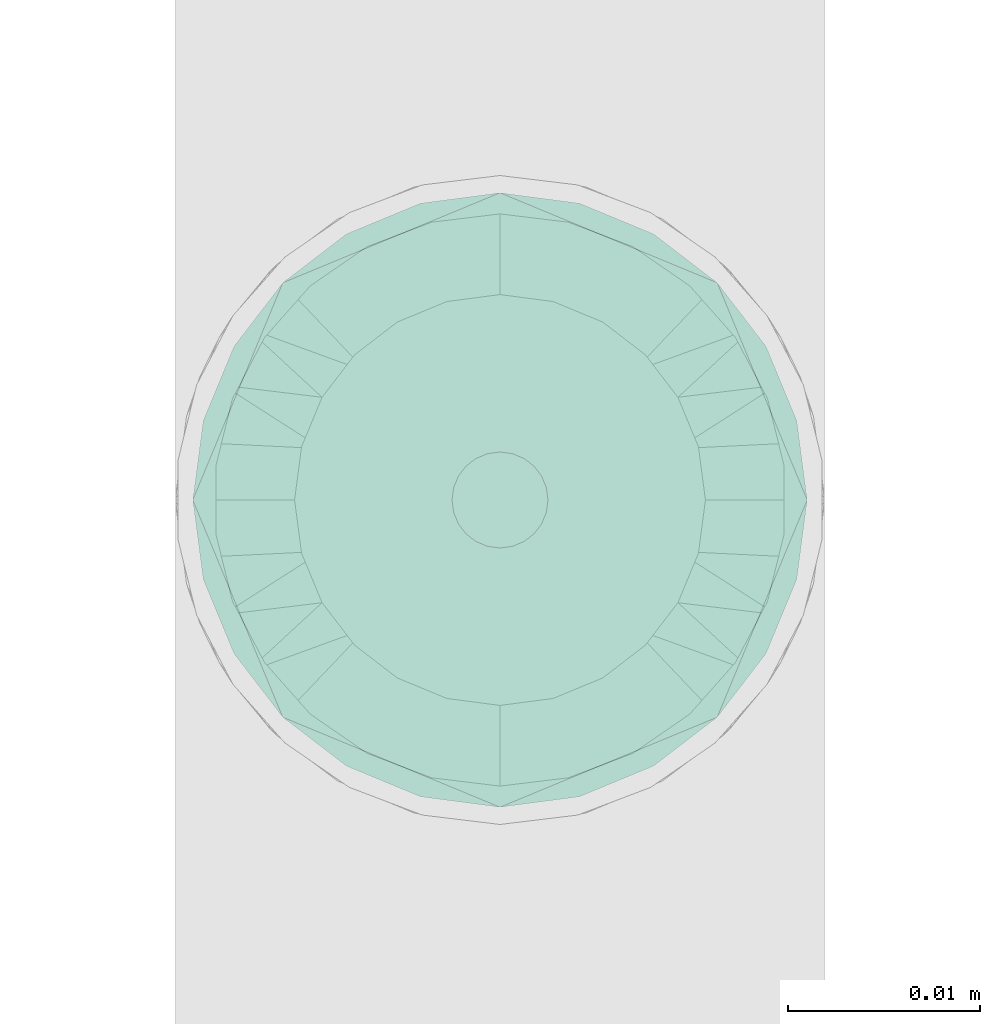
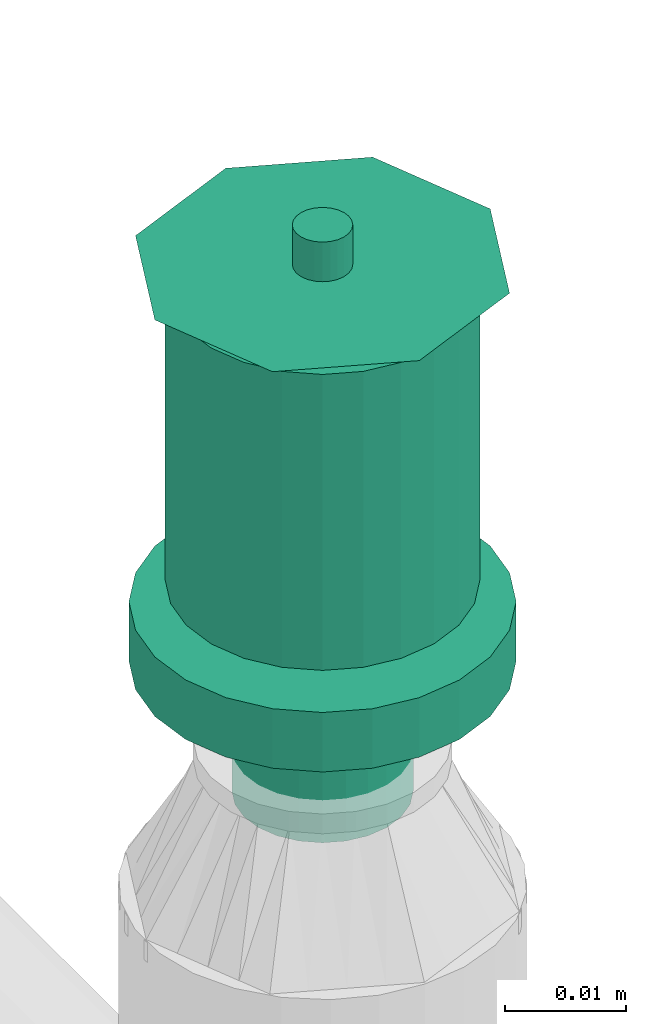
# One storey, part 27 of 31: 1 flow terminal.
"""IFC2X3 building model written with IfcOpenShell, lengths in millimetres."""

from ifc_helpers import new_model, entity, si_unit, converted_unit, derived_unit, direction, frame, origin_with_axes, place, context, subcontext, project, spatial, open_shell, surface_model, source, transform, mapped, type_object, element, save


model = new_model("IFC2X3")

# Units and contexts
model_context = context("Model", 3, precision=0.01, world=frame((0.0, 4.29681676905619e-09, 0.0)), true_north=direction((4.01073788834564e-13, 1.0)))
plan_context = context("Plan", 3, precision=0.01, world=frame((0.0, 4.29681676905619e-09, 0.0)), true_north=direction((4.01073788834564e-13, 1.0)))
body_context = subcontext(model_context, "Body", "Model", "MODEL_VIEW")
ifc_project = project(units=[converted_unit("PLANEANGLEUNIT", "DEGREE", entity("IfcPositiveLengthMeasure", 0.0174532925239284), si_unit("PLANEANGLEUNIT", "RADIAN"), dimensions=[0, 0, 0, 0, 0, 0, 0]), si_unit("AREAUNIT", "SQUARE_METRE"), si_unit("LENGTHUNIT", "METRE", prefix="MILLI"), si_unit("MASSUNIT", "GRAM", prefix="KILO"), si_unit("POWERUNIT", "WATT"), si_unit("PRESSUREUNIT", "PASCAL", prefix="KILO"), si_unit("FORCEUNIT", "NEWTON", prefix="KILO"), si_unit("ELECTRICVOLTAGEUNIT", "VOLT"), si_unit("ELECTRICCURRENTUNIT", "AMPERE"), si_unit("THERMODYNAMICTEMPERATUREUNIT", "DEGREE_CELSIUS"), si_unit("TIMEUNIT", "SECOND"), si_unit("VOLUMEUNIT", "CUBIC_METRE"), derived_unit("LINEARVELOCITYUNIT", [(si_unit("LENGTHUNIT", "METRE"), 1), (si_unit("TIMEUNIT", "SECOND"), -1)]), derived_unit("VOLUMETRICFLOWRATEUNIT", [(si_unit("VOLUMEUNIT", "CUBIC_METRE"), 1), (si_unit("TIMEUNIT", "SECOND"), -1)]), derived_unit("THERMALTRANSMITTANCEUNIT", [(si_unit("POWERUNIT", "WATT"), 1), (si_unit("THERMODYNAMICTEMPERATUREUNIT", "KELVIN"), -1), (si_unit("AREAUNIT", "SQUARE_METRE"), -1)]), derived_unit("SOUNDPRESSUREUNIT", [(si_unit("PRESSUREUNIT", "PASCAL"), 1)])], contexts=[model_context, plan_context])

# Site, building, storey
site_placement = place(None, frame((0.0, -4.29681676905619e-09, 0.0), z_axis=(0.0, 0.0, 1.0), x_axis=(1.0, 0.0, 0.0)))
site = spatial("IfcSite", under=ifc_project, at=site_placement, CompositionType="ELEMENT")
building_placement = place(site_placement, frame((0.0, 4.29681676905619e-09, 0.0), z_axis=(0.0, 0.0, 1.0), x_axis=(1.0, 0.0, 0.0)))
building = spatial("IfcBuilding", under=site, at=building_placement, Name="mc-building", CompositionType="ELEMENT")
storey_placement = place(building_placement, frame((0.0, 0.0, 200300.0), z_axis=(0.0, 0.0, 1.0), x_axis=(1.0, 0.0, 0.0)))
storey = spatial("IfcBuildingStorey", under=building, at=storey_placement, Name="Nivå C", CompositionType="ELEMENT", Elevation=200300.0)

# Flow terminal
fire_suppression_terminal_type = type_object("IfcFireSuppressionTerminalType", Name="68DGR-STD-STÅENDE", PredefinedType="NOTDEFINED")
shared_shape = source(origin_with_axes(), body_context, "Body", "SurfaceModel", [
    surface_model("IfcShellBasedSurfaceModel", [(12.55704, 3.36465, 21.14766), (13.0, 0.0, 21.14766), (12.55704, -3.36465, 21.14766), (-12.55704, -3.36465, 21.14766), (-11.25833, -6.5, 21.14766), (-11.25833, -6.5, 51.0), (3.36465, -12.55704, 51.0), (3.36465, -12.55704, 21.14766), (6.5, -11.25833, 21.14766), (9.19239, -9.19239, 21.14766), (11.25833, -6.5, 21.14766), (9.19239, -9.19239, 51.0), (6.5, -11.25833, 51.0), (11.25833, -6.5, 51.0), (12.55704, -3.36465, 51.0), (13.0, 0.0, 51.0), (9.19239, 9.19239, 51.0), (11.25833, 6.5, 21.14766), (9.19239, 9.19239, 21.14766), (11.25833, 6.5, 51.0), (12.55704, 3.36465, 51.0), (6.5, 11.25833, 51.0), (6.5, 11.25833, 21.14766), (3.36465, 12.55704, 21.14766), (3.36465, 12.55704, 51.0), (-11.25833, 6.5, 51.0), (-11.25833, 6.5, 21.14766), (-12.55704, 3.36465, 21.14766), (0.0, -2.5, 51.0), (-2.5, 0.0, 51.0), (0.0, 2.5, 51.0), (2.5, 0.0, 51.0), (11.31371, 11.31371, 53.0), (-11.31371, 11.31371, 53.0), (-11.31371, -11.31371, 53.0), (11.31371, -11.31371, 53.0), (1.62635, 1.62635, 51.0), (2.16506, 1.25, 51.0), (1.99186, 1.15, 51.0), (-1.76777, 1.76777, 51.0), (-1.25, 2.16506, 51.0), (-1.62635, 1.62635, 51.0), (1.99186, -1.15, 51.0), (2.16506, -1.25, 51.0), (1.62635, -1.62635, 51.0), (-1.62635, -1.62635, 51.0), (-1.25, -2.16506, 51.0), (-1.76777, -1.76777, 51.0), (0.0, 7.3, 0.0), (1.94114, 7.24444, 0.0), (1.88938, 7.05126, 0.0), (5.16188, 5.16188, 0.0), (6.49519, 3.75, 0.0), (6.32199, 3.65, 0.0), (-5.3033, 5.3033, 0.0), (-3.75, 6.49519, 0.0), (-5.16188, 5.16188, 0.0), (6.32199, -3.65, 0.0), (6.49519, -3.75, 0.0), (5.16188, -5.16188, 0.0), (1.88938, -7.05126, 0.0), (1.94114, -7.24444, 0.0), (0.0, -7.3, 0.0), (-5.16188, -5.16188, 0.0), (-3.75, -6.49519, 0.0), (-5.3033, -5.3033, 0.0), (-3.36465, 12.55704, 51.0), (-6.5, 11.25833, 51.0), (0.0, 13.0, 51.0), (-9.19239, 9.19239, 51.0), (0.0, -13.0, 51.0), (-9.19239, -9.19239, 51.0), (-12.55704, -3.36465, 51.0), (-6.5, -11.25833, 51.0), (-3.36465, -12.55704, 51.0), (-7.5, 0.0, -0.1), (-7.24444, 1.94114, 0.1), (-7.24444, 1.94114, -0.1), (-6.49519, 3.75, 0.1), (-6.49519, 3.75, -0.1), (-3.75, 6.49519, -0.1), (-5.3033, 5.3033, -0.1), (-3.75, 6.49519, 0.1), (-5.3033, 5.3033, 0.1), (-1.94114, 7.24444, -0.1), (-1.94114, 7.24444, 0.1), (-7.5, 0.0, 0.1), (0.0, 7.5, 0.1), (0.0, 7.5, -0.1), (1.94114, 7.24444, 0.1), (1.94114, 7.24444, -0.1), (3.75, 6.49519, 0.1), (3.75, 6.49519, -0.1), (6.49519, 3.75, -0.1), (5.3033, 5.3033, -0.1), (6.49519, 3.75, 0.1), (5.3033, 5.3033, 0.1), (7.24444, 1.94114, -0.1), (7.24444, 1.94114, 0.1), (7.5, 0.0, 0.1), (7.5, 0.0, -0.1), (-7.24444, -1.94114, 0.1), (7.24444, -1.94114, 0.1), (5.3033, -5.3033, 0.1), (6.49519, -3.75, 0.1), (-6.49519, -3.75, 0.1), (0.0, -7.5, 0.1), (1.94114, -7.24444, 0.1), (3.75, -6.49519, 0.1), (-3.75, -6.49519, 0.1), (-1.94114, -7.24444, 0.1), (-5.3033, -5.3033, 0.1), (0.0, -7.5, -0.1), (-6.49519, -3.75, -0.1), (1.94114, -7.24444, -0.1), (3.75, -6.49519, -0.1), (5.3033, -5.3033, -0.1), (7.24444, -1.94114, -0.1), (6.49519, -3.75, -0.1), (-3.75, -6.49519, -0.1), (-5.3033, -5.3033, -0.1), (-1.94114, -7.24444, -0.1), (-7.24444, -1.94114, -0.1), (16.0, 0.0, 53.0), (0.0, -16.0, 53.0), (-16.0, 0.0, 53.0), (0.0, 16.0, 53.0), (0.64705, 2.41481, 57.0), (0.0, 2.5, 57.0), (1.25, 2.16506, 57.0), (-2.5, 0.0, 57.0), (1.76777, 1.76777, 57.0), (2.41481, 0.64705, 57.0), (2.16506, 1.25, 57.0), (-0.64705, 2.41481, 57.0), (-1.25, 2.16506, 57.0), (-1.76777, 1.76777, 57.0), (-2.16506, 1.25, 57.0), (-2.41481, 0.64705, 57.0), (2.5, 0.0, 57.0), (1.76777, -1.76777, 57.0), (2.16506, -1.25, 57.0), (2.41481, -0.64705, 57.0), (-2.41481, -0.64705, 57.0), (0.64705, -2.41481, 57.0), (1.25, -2.16506, 57.0), (0.0, -2.5, 57.0), (-1.76777, -1.76777, 57.0), (-2.16506, -1.25, 57.0), (-1.25, -2.16506, 57.0), (-0.64705, -2.41481, 57.0), (1.15, -1.99186, 51.0), (1.76777, -1.76777, 51.0), (1.25, -2.16506, 51.0), (0.59528, -2.22163, 51.0), (0.0, -2.3, 51.0), (0.64705, -2.41481, 51.0), (2.22163, -0.59528, 51.0), (2.3, 0.0, 51.0), (2.41481, -0.64705, 51.0), (-0.64705, -2.41481, 51.0), (-0.59528, -2.22163, 51.0), (-1.15, -1.99186, 51.0), (-2.16506, -1.25, 51.0), (-1.99186, -1.15, 51.0), (-2.22163, -0.59528, 51.0), (-2.3, 0.0, 51.0), (-2.41481, -0.64705, 51.0), (2.22163, 0.59528, 51.0), (2.41481, 0.64705, 51.0), (1.76777, 1.76777, 51.0), (1.15, 1.99186, 51.0), (1.25, 2.16506, 51.0), (0.59528, 2.22163, 51.0), (0.0, 2.3, 51.0), (0.64705, 2.41481, 51.0), (-1.99186, 1.15, 51.0), (-2.16506, 1.25, 51.0), (-2.41481, 0.64705, 51.0), (-2.22163, 0.59528, 51.0), (-0.64705, 2.41481, 51.0), (-0.59528, 2.22163, 51.0), (-1.15, 1.99186, 51.0), (-2.22163, 0.59528, 56.8), (-1.99186, 1.15, 56.8), (-1.15, 1.99186, 56.8), (-1.62635, 1.62635, 56.8), (-0.59528, 2.22163, 56.8), (-2.3, 0.0, 56.8), (0.0, 2.3, 56.8), (0.59528, 2.22163, 56.8), (1.15, 1.99186, 56.8), (1.99186, 1.15, 56.8), (1.62635, 1.62635, 56.8), (2.22163, 0.59528, 56.8), (2.3, 0.0, 56.8), (2.22163, -0.59528, 56.8), (1.99186, -1.15, 56.8), (1.62635, -1.62635, 56.8), (1.15, -1.99186, 56.8), (0.59528, -2.22163, 56.8), (0.0, -2.3, 56.8), (-1.99186, -1.15, 56.8), (-2.22163, -0.59528, 56.8), (-1.62635, -1.62635, 56.8), (-0.59528, -2.22163, 56.8), (-1.15, -1.99186, 56.8), (8.0, -13.85641, 13.0), (4.1411, -15.45481, 13.0), (0.0, -16.0, 13.0), (-4.1411, -15.45481, 13.0), (15.45481, -4.1411, 13.0), (13.85641, -8.0, 13.0), (11.31371, -11.31371, 13.0), (-16.0, 0.0, 13.0), (-8.0, -13.85641, 13.0), (-11.31371, -11.31371, 13.0), (-13.85641, -8.0, 13.0), (-15.45481, -4.1411, 13.0), (15.45481, 4.1411, 13.0), (4.1411, 15.45481, 13.0), (13.85641, 8.0, 13.0), (8.0, 13.85641, 13.0), (11.31371, 11.31371, 13.0), (-15.45481, 4.1411, 13.0), (-11.31371, 11.31371, 13.0), (-8.0, 13.85641, 13.0), (-13.85641, 8.0, 13.0), (-4.1411, 15.45481, 13.0), (0.0, 16.0, 13.0), (16.0, 0.0, 13.0), (7.05126, 1.88938, 12.8), (1.88938, 7.05126, 12.8), (3.65, 6.32199, 12.8), (6.32199, 3.65, 12.8), (5.16188, 5.16188, 12.8), (7.3, 0.0, 12.8), (0.0, 7.3, 12.8), (-3.65, 6.32199, 12.8), (-1.88938, 7.05126, 12.8), (-5.16188, 5.16188, 12.8), (-7.05126, 1.88938, 12.8), (-6.32199, 3.65, 12.8), (7.05126, -1.88938, 12.8), (0.0, -7.3, 12.8), (6.32199, -3.65, 12.8), (3.65, -6.32199, 12.8), (5.16188, -5.16188, 12.8), (1.88938, -7.05126, 12.8), (-7.3, 0.0, 12.8), (-6.32199, -3.65, 12.8), (-7.05126, -1.88938, 12.8), (-1.88938, -7.05126, 12.8), (-5.16188, -5.16188, 12.8), (-3.65, -6.32199, 12.8), (-7.05126, 1.88938, 0.0), (-7.3, 0.0, 0.0), (-6.32199, 3.65, 0.0), (-3.65, 6.32199, 0.0), (-1.88938, 7.05126, 0.0), (3.65, 6.32199, 0.0), (7.05126, 1.88938, 0.0), (7.3, 0.0, 0.0), (3.75, 6.49519, 13.0), (1.94114, 7.24444, 13.0), (7.5, 0.0, 13.0), (5.3033, 5.3033, 13.0), (7.24444, 1.94114, 13.0), (6.49519, 3.75, 13.0), (-5.3033, 5.3033, 13.0), (-7.24444, -1.94114, 13.0), (-1.94114, 7.24444, 13.0), (-3.75, 6.49519, 13.0), (0.0, 7.5, 13.0), (-6.49519, 3.75, 13.0), (-7.24444, 1.94114, 13.0), (7.24444, -1.94114, 13.0), (5.3033, -5.3033, 13.0), (6.49519, -3.75, 13.0), (-6.49519, -3.75, 13.0), (0.0, -7.5, 13.0), (1.94114, -7.24444, 13.0), (3.75, -6.49519, 13.0), (-7.5, 0.0, 13.0), (-3.75, -6.49519, 13.0), (-1.94114, -7.24444, 13.0), (-5.3033, -5.3033, 13.0), (3.65, -6.32199, 0.0), (5.3033, -5.3033, 0.0), (3.75, -6.49519, 0.0), (0.0, -7.5, 0.0), (7.05126, -1.88938, 0.0), (7.24444, -1.94114, 0.0), (7.5, 0.0, 0.0), (-1.94114, -7.24444, 0.0), (-1.88938, -7.05126, 0.0), (-3.65, -6.32199, 0.0), (-6.49519, -3.75, 0.0), (-6.32199, -3.65, 0.0), (-7.05126, -1.88938, 0.0), (-7.24444, -1.94114, 0.0), (-7.5, 0.0, 0.0), (7.24444, 1.94114, 0.0), (5.3033, 5.3033, 0.0), (3.75, 6.49519, 0.0), (0.0, 7.5, 0.0), (-6.49519, 3.75, 0.0), (-7.24444, 1.94114, 0.0), (-1.94114, 7.24444, 0.0), (-12.55704, 3.36465, 51.0), (-13.0, 0.0, 51.0), (0.0, -13.0, 21.14766), (-3.36465, -12.55704, 21.14766), (-6.5, -11.25833, 21.14766), (-9.19239, -9.19239, 21.14766), (-13.0, 0.0, 21.14766), (-9.19239, 9.19239, 21.14766), (-6.5, 11.25833, 21.14766), (-3.36465, 12.55704, 21.14766), (0.0, 13.0, 21.14766), (11.31371, 11.31371, 19.0), (8.0, 13.85641, 19.0), (4.1411, 15.45481, 19.0), (-8.0, 13.85641, 19.0), (16.0, 0.0, 19.0), (15.45481, 4.1411, 19.0), (13.85641, 8.0, 19.0), (-4.1411, 15.45481, 19.0), (0.0, 16.0, 19.0), (-11.31371, 11.31371, 19.0), (-13.85641, 8.0, 19.0), (-15.45481, 4.1411, 19.0), (15.45481, -4.1411, 19.0), (11.31371, -11.31371, 19.0), (13.85641, -8.0, 19.0), (-16.0, 0.0, 19.0), (0.0, -16.0, 19.0), (4.1411, -15.45481, 19.0), (8.0, -13.85641, 19.0), (-13.85641, -8.0, 19.0), (-11.31371, -11.31371, 19.0), (-15.45481, -4.1411, 19.0), (-8.0, -13.85641, 19.0), (-4.1411, -15.45481, 19.0)], [open_shell([[[0, 1, 2]], [[3, 4, 5]], [[6, 7, 8]], [[9, 10, 11]], [[9, 11, 12]], [[10, 13, 11]], [[14, 13, 2]], [[1, 15, 14]], [[16, 17, 18]], [[0, 19, 20]], [[20, 15, 1]], [[21, 16, 18]], [[22, 23, 24]], [[16, 19, 17]], [[25, 26, 27]], [[28, 29, 30]], [[30, 31, 28]], [[31, 30, 32]], [[33, 30, 29]], [[29, 28, 34]], [[35, 28, 31]], [[36, 37, 38]], [[39, 40, 41]], [[42, 43, 44]], [[45, 46, 47]], [[48, 49, 50]], [[51, 52, 53]], [[54, 55, 56]], [[57, 58, 59]], [[60, 61, 62]], [[63, 64, 65]], [[66, 67, 68]], [[67, 24, 68]], [[69, 25, 67]], [[15, 20, 14]], [[70, 6, 12]], [[5, 71, 72]], [[73, 74, 71]], [[72, 71, 74]], [[75, 76, 77]], [[77, 78, 79]], [[80, 81, 82]], [[83, 81, 79]], [[84, 80, 85]], [[76, 78, 77]], [[75, 86, 76]], [[80, 82, 85]], [[82, 81, 83]], [[79, 78, 83]], [[84, 85, 87]], [[87, 88, 84]], [[88, 89, 90]], [[90, 91, 92]], [[93, 94, 95]], [[96, 94, 92]], [[97, 93, 98]], [[91, 96, 92]], [[90, 89, 91]], [[97, 98, 99]], [[98, 93, 95]], [[94, 96, 95]], [[97, 99, 100]], [[87, 89, 88]], [[91, 89, 99]], [[96, 91, 98]], [[91, 99, 98]], [[95, 96, 98]], [[89, 83, 101]], [[85, 82, 87]], [[83, 87, 82]], [[78, 76, 83]], [[89, 87, 83]], [[76, 101, 83]], [[102, 99, 89]], [[103, 104, 102]], [[89, 105, 103]], [[103, 106, 107]], [[108, 103, 107]], [[106, 103, 105]], [[89, 101, 105]], [[101, 76, 86]], [[109, 110, 111]], [[105, 111, 110]], [[106, 105, 110]], [[103, 102, 89]], [[112, 113, 114]], [[115, 114, 116]], [[117, 118, 116]], [[113, 116, 114]], [[116, 113, 117]], [[119, 120, 121]], [[113, 121, 120]], [[121, 113, 112]], [[113, 122, 117]], [[75, 77, 122]], [[100, 117, 122]], [[100, 81, 97]], [[93, 97, 90]], [[90, 92, 94]], [[93, 90, 94]], [[90, 97, 81]], [[79, 81, 77]], [[77, 81, 122]], [[84, 88, 80]], [[81, 80, 88]], [[81, 88, 90]], [[100, 122, 81]], [[100, 102, 117]], [[117, 104, 118]], [[115, 116, 108]], [[103, 116, 118]], [[114, 115, 107]], [[102, 104, 117]], [[100, 99, 102]], [[115, 108, 107]], [[108, 116, 103]], [[118, 104, 103]], [[114, 107, 106]], [[106, 112, 114]], [[112, 110, 121]], [[121, 109, 119]], [[113, 120, 105]], [[111, 120, 119]], [[122, 113, 101]], [[109, 111, 119]], [[121, 110, 109]], [[122, 101, 86]], [[101, 113, 105]], [[120, 111, 105]], [[122, 86, 75]], [[106, 110, 112]], [[31, 123, 35]], [[35, 124, 28]], [[124, 34, 28]], [[29, 34, 125]], [[33, 32, 126]], [[33, 125, 124]], [[124, 32, 33]], [[124, 35, 123]], [[124, 125, 34]], [[123, 32, 124]], [[29, 125, 33]], [[33, 126, 30]], [[126, 32, 30]], [[31, 32, 123]], [[127, 128, 129]], [[129, 130, 131]], [[132, 131, 130]], [[133, 131, 132]], [[130, 129, 128]], [[134, 135, 128]], [[136, 128, 135]], [[137, 138, 136]], [[128, 136, 130]], [[138, 130, 136]], [[139, 132, 130]], [[140, 141, 142]], [[143, 140, 139]], [[144, 140, 143]], [[145, 140, 144]], [[146, 144, 147]], [[139, 130, 143]], [[143, 148, 144]], [[149, 150, 147]], [[144, 148, 147]], [[146, 147, 150]], [[140, 142, 139]], [[151, 152, 153]], [[154, 151, 153]], [[155, 154, 156]], [[153, 156, 154]], [[28, 155, 156]], [[44, 152, 151]], [[157, 158, 159]], [[31, 159, 158]], [[43, 157, 159]], [[152, 44, 43]], [[157, 43, 42]], [[160, 161, 28]], [[161, 155, 28]], [[162, 161, 160]], [[160, 46, 162]], [[162, 46, 45]], [[47, 163, 164]], [[165, 164, 163]], [[45, 47, 164]], [[166, 165, 167]], [[163, 167, 165]], [[29, 166, 167]], [[168, 169, 31]], [[38, 169, 168]], [[169, 38, 37]], [[170, 37, 36]], [[171, 172, 170]], [[173, 172, 171]], [[174, 175, 173]], [[172, 173, 175]], [[30, 175, 174]], [[170, 36, 171]], [[39, 176, 177]], [[41, 176, 39]], [[178, 177, 176]], [[178, 179, 29]], [[176, 179, 178]], [[179, 166, 29]], [[180, 30, 181]], [[182, 180, 181]], [[182, 41, 40]], [[180, 182, 40]], [[181, 30, 174]], [[31, 158, 168]], [[29, 138, 178]], [[178, 137, 177]], [[40, 39, 135]], [[136, 39, 177]], [[180, 40, 134]], [[138, 137, 178]], [[29, 130, 138]], [[40, 135, 134]], [[135, 39, 136]], [[177, 137, 136]], [[180, 134, 128]], [[128, 30, 180]], [[30, 127, 175]], [[175, 129, 172]], [[37, 170, 133]], [[131, 170, 172]], [[169, 37, 132]], [[129, 131, 172]], [[175, 127, 129]], [[169, 132, 139]], [[132, 37, 133]], [[170, 131, 133]], [[169, 139, 31]], [[128, 127, 30]], [[179, 183, 166]], [[176, 184, 179]], [[185, 41, 182]], [[176, 41, 186]], [[187, 182, 181]], [[179, 184, 183]], [[183, 188, 166]], [[187, 185, 182]], [[186, 41, 185]], [[186, 184, 176]], [[189, 187, 181]], [[181, 174, 189]], [[173, 190, 174]], [[171, 191, 173]], [[192, 36, 38]], [[171, 36, 193]], [[194, 38, 168]], [[171, 193, 191]], [[191, 190, 173]], [[195, 194, 168]], [[192, 38, 194]], [[192, 193, 36]], [[158, 195, 168]], [[174, 190, 189]], [[31, 142, 159]], [[159, 141, 43]], [[153, 152, 145]], [[140, 152, 43]], [[156, 153, 144]], [[142, 141, 159]], [[31, 139, 142]], [[153, 145, 144]], [[145, 152, 140]], [[43, 141, 140]], [[156, 144, 146]], [[146, 28, 156]], [[28, 150, 160]], [[160, 149, 46]], [[163, 47, 148]], [[147, 47, 46]], [[167, 163, 143]], [[149, 147, 46]], [[160, 150, 149]], [[167, 143, 130]], [[143, 163, 148]], [[47, 147, 148]], [[167, 130, 29]], [[146, 150, 28]], [[190, 191, 193]], [[190, 193, 195]], [[194, 195, 193]], [[194, 193, 192]], [[190, 195, 186]], [[189, 185, 187]], [[185, 189, 186]], [[186, 183, 184]], [[186, 189, 190]], [[186, 196, 183]], [[186, 195, 196]], [[196, 197, 198]], [[196, 198, 199]], [[199, 200, 201]], [[199, 201, 196]], [[196, 201, 202]], [[188, 202, 203]], [[183, 202, 188]], [[204, 205, 206]], [[205, 204, 202]], [[201, 205, 202]], [[202, 183, 196]], [[157, 196, 158]], [[42, 197, 157]], [[199, 44, 151]], [[42, 44, 198]], [[200, 151, 154]], [[157, 197, 196]], [[196, 195, 158]], [[200, 199, 151]], [[198, 44, 199]], [[198, 197, 42]], [[201, 200, 154]], [[154, 155, 201]], [[161, 205, 155]], [[162, 206, 161]], [[202, 45, 164]], [[162, 45, 204]], [[203, 164, 165]], [[162, 204, 206]], [[206, 205, 161]], [[188, 203, 165]], [[202, 164, 203]], [[202, 204, 45]], [[166, 188, 165]], [[155, 205, 201]], [[207, 208, 209]], [[207, 209, 210]], [[211, 212, 213]], [[213, 207, 214]], [[211, 213, 214]], [[215, 216, 210]], [[217, 210, 216]], [[217, 218, 210]], [[218, 207, 210]], [[218, 214, 207]], [[214, 219, 211]], [[220, 219, 214]], [[221, 219, 220]], [[220, 222, 223]], [[221, 220, 223]], [[214, 224, 220]], [[225, 226, 227]], [[224, 227, 226]], [[228, 229, 226]], [[220, 224, 226]], [[226, 229, 220]], [[219, 230, 211]], [[231, 232, 233]], [[234, 233, 235]], [[231, 236, 232]], [[231, 233, 234]], [[232, 236, 237]], [[237, 238, 239]], [[238, 237, 240]], [[240, 241, 242]], [[240, 237, 236]], [[236, 241, 240]], [[236, 243, 241]], [[244, 243, 245]], [[246, 245, 247]], [[246, 248, 244]], [[246, 244, 245]], [[243, 244, 249]], [[249, 250, 251]], [[250, 249, 252]], [[253, 252, 254]], [[252, 253, 250]], [[249, 244, 252]], [[243, 249, 241]], [[255, 241, 256]], [[257, 242, 255]], [[238, 56, 258]], [[257, 56, 240]], [[239, 258, 259]], [[255, 242, 241]], [[241, 249, 256]], [[239, 238, 258]], [[240, 56, 238]], [[240, 242, 257]], [[237, 239, 259]], [[259, 48, 237]], [[50, 232, 48]], [[260, 233, 50]], [[234, 51, 53]], [[260, 51, 235]], [[231, 53, 261]], [[260, 235, 233]], [[233, 232, 50]], [[236, 231, 261]], [[234, 53, 231]], [[234, 235, 51]], [[262, 236, 261]], [[48, 232, 237]], [[263, 264, 265]], [[266, 263, 267]], [[263, 265, 267]], [[268, 266, 267]], [[264, 269, 270]], [[271, 272, 273]], [[269, 273, 272]], [[274, 275, 269]], [[264, 273, 269]], [[275, 270, 269]], [[276, 265, 264]], [[277, 278, 276]], [[264, 279, 277]], [[277, 280, 281]], [[282, 277, 281]], [[280, 277, 279]], [[264, 270, 279]], [[270, 275, 283]], [[284, 285, 286]], [[279, 286, 285]], [[280, 279, 285]], [[277, 276, 264]], [[287, 288, 289]], [[60, 287, 289]], [[290, 62, 61]], [[289, 61, 60]], [[59, 288, 287]], [[291, 262, 292]], [[293, 292, 262]], [[58, 291, 292]], [[288, 59, 58]], [[291, 58, 57]], [[294, 295, 290]], [[296, 295, 294]], [[294, 64, 296]], [[64, 63, 296]], [[295, 62, 290]], [[65, 297, 298]], [[299, 298, 297]], [[63, 65, 298]], [[256, 299, 300]], [[297, 300, 299]], [[301, 256, 300]], [[261, 302, 293]], [[53, 302, 261]], [[302, 53, 52]], [[303, 52, 51]], [[260, 304, 303]], [[50, 304, 260]], [[304, 50, 49]], [[305, 49, 48]], [[303, 51, 260]], [[54, 257, 306]], [[56, 257, 54]], [[307, 306, 257]], [[307, 255, 301]], [[257, 255, 307]], [[255, 256, 301]], [[308, 305, 259]], [[258, 308, 259]], [[55, 258, 56]], [[308, 258, 55]], [[259, 305, 48]], [[293, 262, 261]], [[301, 275, 307]], [[307, 274, 306]], [[55, 54, 272]], [[269, 54, 306]], [[308, 55, 271]], [[275, 274, 307]], [[301, 283, 275]], [[55, 272, 271]], [[272, 54, 269]], [[306, 274, 269]], [[308, 271, 273]], [[273, 305, 308]], [[305, 264, 49]], [[49, 263, 304]], [[52, 303, 268]], [[266, 303, 304]], [[302, 52, 267]], [[263, 266, 304]], [[49, 264, 263]], [[302, 267, 265]], [[267, 52, 268]], [[303, 266, 268]], [[302, 265, 293]], [[273, 264, 305]], [[293, 276, 292]], [[292, 278, 58]], [[289, 288, 282]], [[277, 288, 58]], [[61, 289, 281]], [[276, 278, 292]], [[293, 265, 276]], [[289, 282, 281]], [[282, 288, 277]], [[58, 278, 277]], [[61, 281, 280]], [[280, 290, 61]], [[290, 285, 294]], [[294, 284, 64]], [[297, 65, 279]], [[286, 65, 64]], [[300, 297, 270]], [[284, 286, 64]], [[294, 285, 284]], [[300, 270, 283]], [[270, 297, 279]], [[65, 286, 279]], [[300, 283, 301]], [[280, 285, 290]], [[291, 243, 262]], [[57, 245, 291]], [[246, 59, 287]], [[57, 59, 247]], [[248, 287, 60]], [[291, 245, 243]], [[243, 236, 262]], [[248, 246, 287]], [[247, 59, 246]], [[247, 245, 57]], [[244, 248, 60]], [[60, 62, 244]], [[295, 252, 62]], [[296, 254, 295]], [[250, 63, 298]], [[296, 63, 253]], [[251, 298, 299]], [[296, 253, 254]], [[254, 252, 295]], [[249, 251, 299]], [[250, 298, 251]], [[250, 253, 63]], [[256, 249, 299]], [[62, 252, 244]], [[16, 21, 24]], [[20, 16, 24]], [[24, 67, 72]], [[19, 16, 20]], [[24, 72, 20]], [[25, 72, 67]], [[309, 310, 25]], [[11, 13, 14]], [[72, 11, 20]], [[74, 12, 11]], [[12, 74, 70]], [[72, 25, 310]], [[72, 74, 11]], [[11, 14, 20]], [[8, 7, 311]], [[8, 311, 312]], [[2, 10, 9]], [[3, 9, 8]], [[3, 26, 9]], [[313, 314, 312]], [[3, 312, 314]], [[4, 3, 314]], [[3, 8, 312]], [[315, 26, 3]], [[2, 9, 26]], [[0, 2, 26]], [[17, 0, 18]], [[23, 22, 18]], [[0, 23, 18]], [[23, 0, 26]], [[316, 317, 26]], [[26, 315, 27]], [[318, 319, 317]], [[23, 26, 317]], [[23, 317, 319]], [[316, 26, 25]], [[318, 317, 67]], [[69, 317, 316]], [[319, 318, 66]], [[310, 309, 315]], [[27, 315, 309]], [[25, 27, 309]], [[25, 69, 316]], [[317, 69, 67]], [[67, 66, 318]], [[66, 68, 319]], [[22, 21, 18]], [[0, 17, 19]], [[1, 0, 20]], [[68, 24, 23]], [[24, 21, 22]], [[319, 68, 23]], [[1, 14, 2]], [[2, 13, 10]], [[6, 311, 7]], [[6, 8, 12]], [[12, 8, 9]], [[6, 70, 311]], [[313, 312, 74]], [[313, 73, 314]], [[71, 4, 314]], [[315, 3, 72]], [[70, 74, 312]], [[74, 73, 313]], [[73, 71, 314]], [[71, 5, 4]], [[3, 5, 72]], [[72, 310, 315]], [[311, 70, 312]], [[320, 321, 322]], [[320, 322, 323]], [[320, 324, 325]], [[326, 320, 325]], [[324, 320, 323]], [[327, 323, 328]], [[323, 322, 328]], [[329, 330, 323]], [[331, 323, 330]], [[323, 331, 324]], [[331, 332, 324]], [[333, 334, 332]], [[335, 333, 331]], [[336, 337, 338]], [[335, 338, 333]], [[338, 335, 336]], [[339, 340, 341]], [[335, 341, 340]], [[342, 343, 340]], [[335, 340, 343]], [[343, 336, 335]], [[332, 331, 333]], [[214, 331, 224]], [[224, 330, 227]], [[226, 225, 323]], [[329, 225, 227]], [[228, 226, 327]], [[331, 330, 224]], [[214, 335, 331]], [[226, 323, 327]], [[323, 225, 329]], [[227, 330, 329]], [[228, 327, 328]], [[328, 229, 228]], [[229, 322, 220]], [[220, 321, 222]], [[221, 223, 326]], [[320, 223, 222]], [[219, 221, 325]], [[321, 320, 222]], [[220, 322, 321]], [[219, 325, 324]], [[325, 221, 326]], [[223, 320, 326]], [[219, 324, 230]], [[328, 322, 229]], [[230, 332, 211]], [[211, 334, 212]], [[207, 213, 338]], [[333, 213, 212]], [[208, 207, 337]], [[332, 334, 211]], [[230, 324, 332]], [[207, 338, 337]], [[338, 213, 333]], [[212, 334, 333]], [[208, 337, 336]], [[336, 209, 208]], [[209, 343, 210]], [[210, 342, 215]], [[217, 216, 339]], [[340, 216, 215]], [[218, 217, 341]], [[342, 340, 215]], [[210, 343, 342]], [[218, 341, 335]], [[341, 217, 339]], [[216, 340, 339]], [[218, 335, 214]], [[336, 343, 209]]])]),
])
flow_terminal_placement = place(storey_placement, frame((611500.0, 400928.19532, 2972.0), z_axis=(0.0, 0.0, 1.0), x_axis=(-1.0, 0.0, 0.0)))
element("IfcFlowTerminal", 1, at=flow_terminal_placement, inside=storey, type_object=fire_suppression_terminal_type, Name="68DGR-STD-STÅENDE", context=body_context, shape_type="MappedRepresentation", body=[
    mapped(shared_shape, transform((0.0, 0.0, 0.0), scale=1.0)),
])

save(model, "model.ifc")
